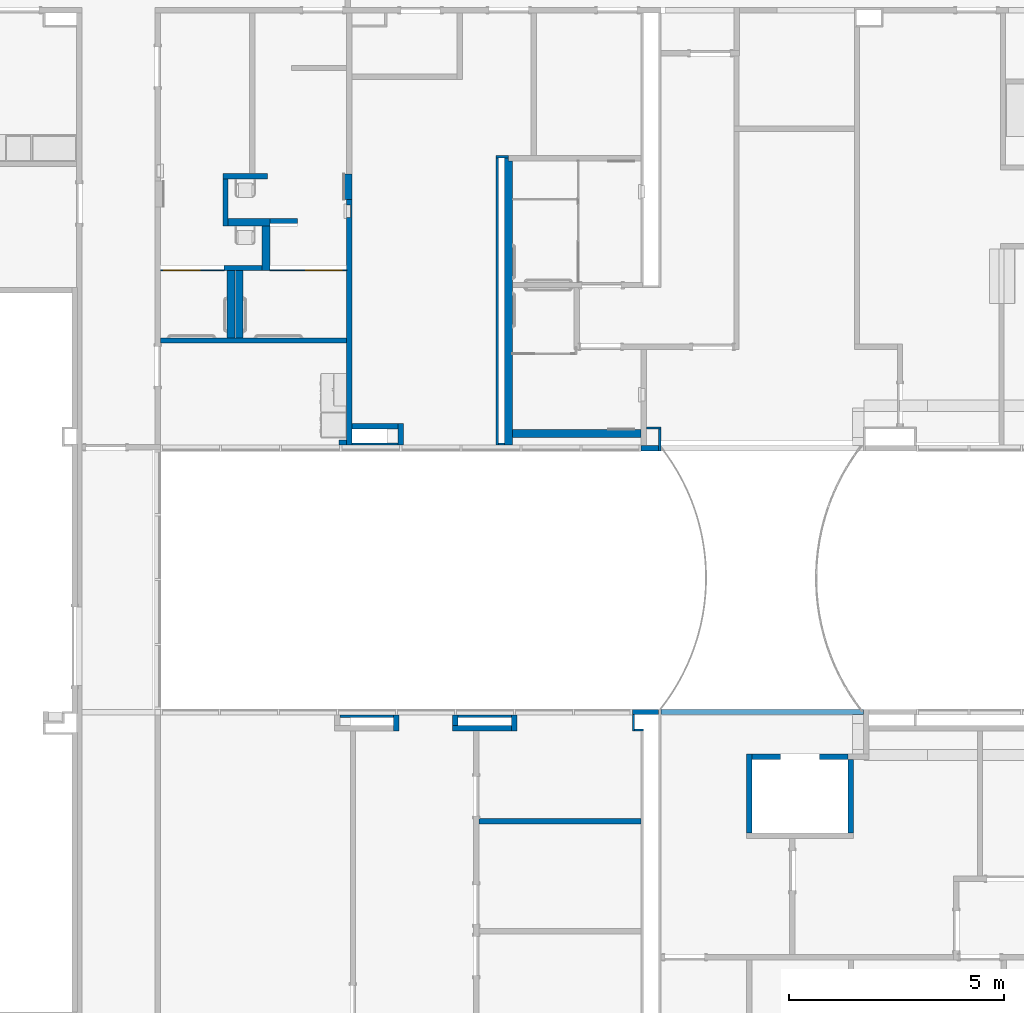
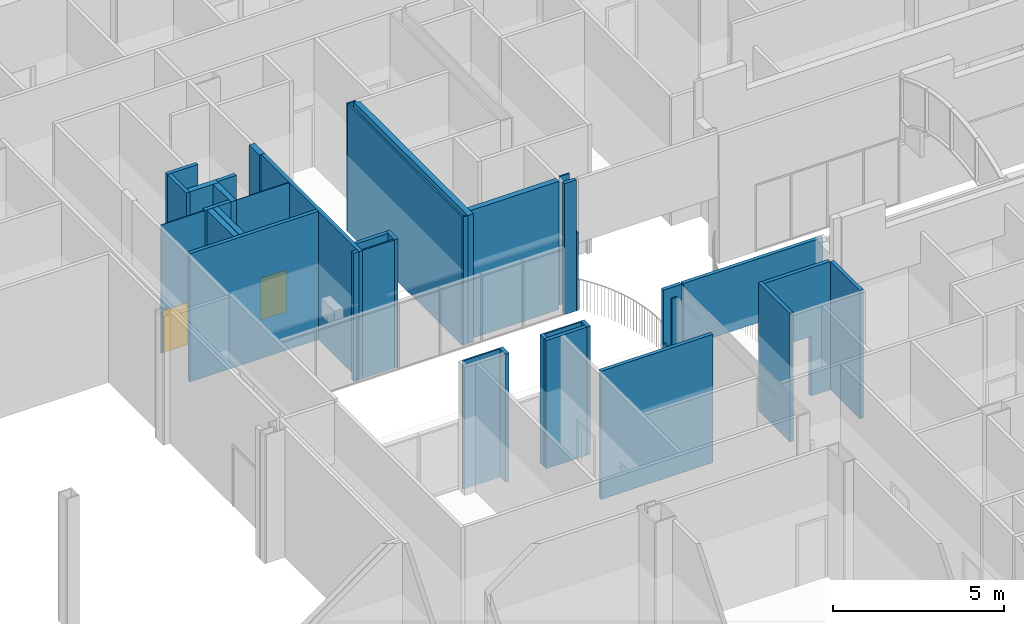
# One storey, part 13 of 47: 39 walls, 2 doors, 6 openings.
"""IFC2X3 building model written with IfcOpenShell, lengths in metres."""

import ifcopenshell
import ifcopenshell.guid

model = None  # the IFC model being written
_history = None  # IfcOwnerHistory: only IFC2X3 demands one
_inside = {}  # id of a spatial element -> (the spatial element, [elements in it])
_under = {}  # id of a project, library or spatial element -> (it, [spatial elements below it])
_declared = {}  # id of a project -> (the project, [libraries it declares])
_typed = {}  # id of a type object -> (the type object, [elements of that type])
_made_of = {}  # id of a material, layer set ... -> (it, [elements and type objects made of it])


def new_model(schema):
    """Start an empty IFC model of exactly this schema.

    Asked for "IFC4X3", IfcOpenShell would pick the latest addendum, in which some entities
    have other attributes; the version numbers below select the first issue.
    IFC2X3 requires an IfcOwnerHistory on every rooted entity: one is made here for all.
    """
    global model, _history
    if schema == "IFC4X3":
        model = ifcopenshell.file(schema_version=(4, 3, 0, 0))
    else:
        model = ifcopenshell.file(schema=schema)
    _inside.clear()
    _under.clear()
    _declared.clear()
    _typed.clear()
    _made_of.clear()
    _history = None
    if model.schema == "IFC2X3":
        org = make("IfcOrganization", Name="unknown")
        user = make(
            "IfcPersonAndOrganization",
            ThePerson=make("IfcPerson", FamilyName="unknown"),
            TheOrganization=org,
        )
        app = make(
            "IfcApplication",
            ApplicationDeveloper=org,
            Version="unknown",
            ApplicationFullName="unknown",
            ApplicationIdentifier="unknown",
        )
        _history = make(
            "IfcOwnerHistory",
            OwningUser=user,
            OwningApplication=app,
            ChangeAction="ADDED",
            CreationDate=0,
        )
    return model


def make(cls, **values):
    """One entity of the class cls with the attributes given. An attribute that is None is left unset."""
    return model.create_entity(
        cls, **{name: value for name, value in values.items() if value is not None}
    )


def entity(cls, *values):
    """Any entity or typed value of the class cls, its attributes in the order of the schema. None: left unset."""
    e = model.create_entity(cls)
    for i, value in enumerate(values):
        if value is not None:
            e[i] = value
    return e


def rooted(cls, **values):
    """An entity with a GlobalId (a new one), such as an element, a storey or a relation."""
    return make(cls, GlobalId=ifcopenshell.guid.new(), OwnerHistory=_history, **values)


def si_unit(unit_type, name, prefix=None):
    """IfcSIUnit, for example si_unit("LENGTHUNIT", "METRE", prefix="MILLI")."""
    return make("IfcSIUnit", UnitType=unit_type, Prefix=prefix, Name=name)


def converted_unit(unit_type, name, factor, base, dimensions=None, offset=None):
    """IfcConversionBasedUnit, such as the inch: factor (a typed value) times the base unit."""
    return make(
        "IfcConversionBasedUnit"
        if offset is None
        else "IfcConversionBasedUnitWithOffset",
        ConversionOffset=offset,
        Dimensions=None
        if dimensions is None
        else entity("IfcDimensionalExponents", *dimensions),
        UnitType=unit_type,
        Name=name,
        ConversionFactor=make(
            "IfcMeasureWithUnit", ValueComponent=factor, UnitComponent=base
        ),
    )


def assignment(units):
    """IfcUnitAssignment: the units of a project."""
    return None if units is None else make("IfcUnitAssignment", Units=units)


def point(xyz):
    """IfcCartesianPoint."""
    return None if xyz is None else make("IfcCartesianPoint", Coordinates=xyz)


def direction(xyz):
    """IfcDirection."""
    return None if xyz is None else make("IfcDirection", DirectionRatios=xyz)


def frame(location, z_axis=None, x_axis=None):
    """IfcAxis2Placement3D, a coordinate frame: its origin and axes. An axis left out is left unset."""
    return make(
        "IfcAxis2Placement3D",
        Location=point(location),
        Axis=direction(z_axis),
        RefDirection=direction(x_axis),
    )


def frame_2d(location, x_axis=None):
    """IfcAxis2Placement2D, a coordinate frame in the plane: its origin and x axis."""
    return make(
        "IfcAxis2Placement2D", Location=point(location), RefDirection=direction(x_axis)
    )


def origin():
    """The frame at (0, 0, 0) with its axes left unset."""
    return frame((0.0, 0.0, 0.0))


def origin_2d_with_axis():
    """The frame at (0, 0) in the plane with the x axis (1, 0) written out."""
    return frame_2d((0.0, 0.0), x_axis=(1.0, 0.0))


def place(relative_to, where):
    """IfcLocalPlacement: puts the frame where relative to a parent placement (None: the world)."""
    return make(
        "IfcLocalPlacement", PlacementRelTo=relative_to, RelativePlacement=where
    )


def context(
    kind, dimensions, precision=None, world=None, true_north=None, identifier=None
):
    """IfcGeometricRepresentationContext, for example the 3D "Model" context."""
    return make(
        "IfcGeometricRepresentationContext",
        ContextIdentifier=identifier,
        ContextType=kind,
        CoordinateSpaceDimension=dimensions,
        Precision=precision,
        WorldCoordinateSystem=world,
        TrueNorth=true_north,
    )


def project(units=None, contexts=None):
    """IfcProject with its units and contexts."""
    return rooted(
        "IfcProject",
        Name="project",
        RepresentationContexts=contexts,
        UnitsInContext=assignment(units),
    )


def spatial(cls, under=None, at=None, **own):
    """A site, building, storey or space (cls), placed at a placement, below another one or the project."""
    s = rooted(cls, ObjectPlacement=at, **own)
    if under is not None:
        _under.setdefault(under.id(), (under, []))[1].append(s)
    return s


def polyline(points):
    """IfcPolyline through the points."""
    return make("IfcPolyline", Points=[point(p) for p in points])


def profile(cls, at=None, kind="AREA", **sizes):
    """A parametric profile (cls). Its sizes go by their IFC names, for example OverallWidth=200.0."""
    return make(cls, ProfileType=kind, Position=at, **sizes)


def rectangle(**sizes):
    """IfcRectangleProfileDef."""
    return profile("IfcRectangleProfileDef", **sizes)


def outline(outer, holes=None, kind="AREA"):
    """IfcArbitraryClosedProfileDef: a profile drawn as a closed curve; with holes, ...WithVoids."""
    if holes is None:
        return make("IfcArbitraryClosedProfileDef", ProfileType=kind, OuterCurve=outer)
    return make(
        "IfcArbitraryProfileDefWithVoids",
        ProfileType=kind,
        OuterCurve=outer,
        InnerCurves=holes,
    )


def extrude(swept, where, along, depth):
    """IfcExtrudedAreaSolid: the profile swept, set in the frame where, extruded along a direction by depth."""
    return make(
        "IfcExtrudedAreaSolid",
        SweptArea=swept,
        Position=where,
        ExtrudedDirection=direction(along),
        Depth=depth,
    )


def shape(context_of_items, identifier, shape_type, items):
    """IfcShapeRepresentation: the items that make up one representation, for example the "Body"."""
    return make(
        "IfcShapeRepresentation",
        ContextOfItems=context_of_items,
        RepresentationIdentifier=identifier,
        RepresentationType=shape_type,
        Items=items,
    )


def source(mapping_origin, context_of_items, identifier, shape_type, items):
    """IfcRepresentationMap: a shape defined once, which mapped items show again and again."""
    return make(
        "IfcRepresentationMap",
        MappingOrigin=mapping_origin,
        MappedRepresentation=shape(context_of_items, identifier, shape_type, items),
    )


def transform(
    local_origin,
    x_axis=None,
    y_axis=None,
    z_axis=None,
    scale=None,
    scale2=None,
    scale3=None,
    uniform=True,
):
    """IfcCartesianTransformationOperator3D, or its non-uniform kind. x_axis, y_axis, z_axis: its Axis1, 2, 3."""
    if uniform:
        return make(
            "IfcCartesianTransformationOperator3D",
            Axis1=direction(x_axis),
            Axis2=direction(y_axis),
            LocalOrigin=point(local_origin),
            Scale=scale,
            Axis3=direction(z_axis),
        )
    return make(
        "IfcCartesianTransformationOperator3DnonUniform",
        Axis1=direction(x_axis),
        Axis2=direction(y_axis),
        LocalOrigin=point(local_origin),
        Scale=scale,
        Axis3=direction(z_axis),
        Scale2=scale2,
        Scale3=scale3,
    )


def mapped(mapping_source, mapping_target):
    """IfcMappedItem: shows the shape of a source again, moved by a transform."""
    return make(
        "IfcMappedItem", MappingSource=mapping_source, MappingTarget=mapping_target
    )


def material(Name=None, Category=None):
    """IfcMaterial."""
    return make("IfcMaterial", Name=Name, Category=Category)


def layer(
    of_material, thickness, ventilated=None, Name=None, Category=None, Priority=None
):
    """IfcMaterialLayer: one layer of a wall or slab, of a material (None: an air gap)."""
    return make(
        "IfcMaterialLayer",
        Material=of_material,
        LayerThickness=thickness,
        IsVentilated=ventilated,
        Name=Name,
        Category=Category,
        Priority=Priority,
    )


def layer_set(layers, Name=None):
    """IfcMaterialLayerSet."""
    return make("IfcMaterialLayerSet", MaterialLayers=layers, LayerSetName=Name)


def layer_usage(for_layer_set, set_direction, sense, offset, extent=None):
    """IfcMaterialLayerSetUsage: how a layer set lies in its element."""
    return make(
        "IfcMaterialLayerSetUsage",
        ForLayerSet=for_layer_set,
        LayerSetDirection=set_direction,
        DirectionSense=sense,
        OffsetFromReferenceLine=offset,
        ReferenceExtent=extent,
    )


def made_of(thing, what):
    """Note that an element or type object is made of a material, layer set ...; save() writes the relation."""
    if what is not None:
        _made_of.setdefault(what.id(), (what, []))[1].append(thing)
    return thing


def type_object(cls, material=None, **own):
    """A type object (cls), such as IfcWallType, which elements share."""
    return made_of(rooted(cls, **own), material)


def type_shapes(of_type, sources):
    """Give a type object the sources (RepresentationMaps) that its elements show as mapped items."""
    of_type.RepresentationMaps = sources


def element(
    cls,
    number,
    at=None,
    inside=None,
    cuts=None,
    type_object=None,
    material=None,
    context=None,
    identifier="Body",
    shape_type=None,
    held_by="IfcProductDefinitionShape",
    body=None,
    shapes=None,
    **own,
):
    """One element of the class cls, such as IfcWall. Its Tag is "e" and its number.

    at: its placement. inside: the storey or other place that contains it. cuts: it is an
    opening in that element (IfcRelVoidsElement). A single representation is given by context,
    identifier, shape_type and body (its items); several are given by shapes. held_by: the class
    of the entity that holds the representations. save() writes the other relations.
    """
    e = rooted(cls, Tag="e%d" % number, ObjectPlacement=at, **own)
    if body is not None:
        shapes = [shape(context, identifier, shape_type, body)]
    if shapes is not None:
        e.Representation = make(held_by, Representations=shapes)
    if inside is not None:
        _inside.setdefault(inside.id(), (inside, []))[1].append(e)
    if cuts is not None:
        rooted(
            "IfcRelVoidsElement", RelatingBuildingElement=cuts, RelatedOpeningElement=e
        )
    if type_object is not None:
        _typed.setdefault(type_object.id(), (type_object, []))[1].append(e)
    return made_of(e, material)


def fill(opening, filler):
    """IfcRelFillsElement: the door or window that sits in an opening."""
    return rooted(
        "IfcRelFillsElement",
        RelatingOpeningElement=opening,
        RelatedBuildingElement=filler,
    )


def aggregate(whole, parts):
    """IfcRelAggregates: a whole, such as a stair, and the parts it consists of."""
    return rooted("IfcRelAggregates", RelatingObject=whole, RelatedObjects=parts)


def save(model, path):
    """Write the relations noted so far, then the file.

    IfcRelAggregates (storeys below a building ...), IfcRelContainedInSpatialStructure (elements
    in a storey), IfcRelDefinesByType, IfcRelAssociatesMaterial and IfcRelDeclares: one each for
    every whole, place, type object, material and project.
    """
    for whole, parts in _under.values():
        aggregate(whole, parts)
    for where, things in _inside.values():
        rooted(
            "IfcRelContainedInSpatialStructure",
            RelatedElements=things,
            RelatingStructure=where,
        )
    for kind, things in _typed.values():
        rooted("IfcRelDefinesByType", RelatedObjects=things, RelatingType=kind)
    for what, things in _made_of.values():
        rooted("IfcRelAssociatesMaterial", RelatedObjects=things, RelatingMaterial=what)
    for by, libraries in _declared.values():
        rooted("IfcRelDeclares", RelatingContext=by, RelatedDefinitions=libraries)
    model.write(path)


model = new_model("IFC2X3")

# Units and contexts
model_context = context("Model", 3, precision=1e-09, world=origin())
plan_context = context("Plan", 3, precision=1e-09, world=origin())
ifc_project = project(units=[si_unit("LENGTHUNIT", "METRE"), si_unit("AREAUNIT", "SQUARE_METRE"), si_unit("VOLUMEUNIT", "CUBIC_METRE"), converted_unit("PLANEANGLEUNIT", "DEGREE", entity("IfcRatioMeasure", 0.01745329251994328), si_unit("PLANEANGLEUNIT", "RADIAN"), dimensions=[0, 0, 0, 0, 0, 0, 0]), si_unit("TIMEUNIT", "SECOND")], contexts=[model_context, plan_context])

# Site, building, storey
site_placement = place(None, origin())
site = spatial("IfcSite", under=ifc_project, at=site_placement, Name="Default", CompositionType="ELEMENT")
building_placement = place(site_placement, origin())
building = spatial("IfcBuilding", under=site, at=building_placement, CompositionType="ELEMENT")
storey_placement = place(building_placement, frame((0.0, 0.0, 4.570000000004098)))
storey = spatial("IfcBuildingStorey", under=building, at=storey_placement, Name="Second Floor", CompositionType="ELEMENT", Elevation=4.570000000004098)

# Walls
ifc_material_1 = material(Name="Plasterboard")
ifc_layer_1 = layer(ifc_material_1, 0.016)
ifc_material_2 = material(Name="Metal - Stud Layer")
ifc_layer_2 = layer(ifc_material_2, 0.092)
ifc_layer_3 = layer(ifc_material_1, 0.016)
ifc_layer_set_1 = layer_set([ifc_layer_1, ifc_layer_2, ifc_layer_3], Name="Basic Wall:Interior - Partition (92mm Stud)")
ifc_layer_usage_1 = layer_usage(ifc_layer_set_1, "AXIS2", "NEGATIVE", 0.062)
wall_1_placement = place(storey_placement, frame((-25.99200000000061, 28.55319840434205, 0.0), z_axis=(0.0, 0.0, 1.0), x_axis=(0.0, -1.0, 0.0)))
element("IfcWallStandardCase", 1, at=wall_1_placement, inside=storey, material=ifc_layer_usage_1, Name="Basic Wall:Interior - Partition (92mm Stud)", ObjectType="Basic Wall:Interior - Partition (92mm Stud)", context=model_context, shape_type="SweptSolid", body=[
    extrude(rectangle(XDim=0.3687596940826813, YDim=0.1239999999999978, at=frame_2d((0.1843798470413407, 0.0), x_axis=(-1.0, 0.0))), origin(), (0.0, 0.0, 1.0), 4.577999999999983),
])
ifc_layer_usage_2 = layer_usage(ifc_layer_set_1, "AXIS2", "NEGATIVE", 0.062)
wall_2_placement = place(storey_placement, frame((-23.2435000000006, 28.55319840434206, 0.0), z_axis=(0.0, 0.0, 1.0), x_axis=(0.0, -1.0, 0.0)))
element("IfcWallStandardCase", 2, at=wall_2_placement, inside=storey, material=ifc_layer_usage_2, Name="Basic Wall:Interior - Partition (92mm Stud)", ObjectType="Basic Wall:Interior - Partition (92mm Stud)", context=model_context, shape_type="SweptSolid", body=[
    extrude(rectangle(XDim=0.3687596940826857, YDim=0.1239999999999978, at=frame_2d((0.1843798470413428, 0.0), x_axis=(-1.0, 0.0))), origin(), (0.0, 0.0, 1.0), 4.577999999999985),
])
ifc_layer_usage_3 = layer_usage(ifc_layer_set_1, "AXIS2", "NEGATIVE", 0.062)
wall_3_placement = place(storey_placement, frame((-23.30550000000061, 28.24643871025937, 0.0), z_axis=(0.0, 0.0, 1.0), x_axis=(-1.0, 0.0, 0.0)))
element("IfcWallStandardCase", 3, at=wall_3_placement, inside=storey, material=ifc_layer_usage_3, Name="Basic Wall:Interior - Partition (92mm Stud)", ObjectType="Basic Wall:Interior - Partition (92mm Stud)", context=model_context, shape_type="SweptSolid", body=[
    extrude(rectangle(XDim=1.374249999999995, YDim=0.1239999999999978, at=frame_2d((0.6871249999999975, 0.0), x_axis=(-1.0, 0.0))), origin(), (0.0, 0.0, 1.0), 4.577999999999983),
])
ifc_layer_usage_4 = layer_usage(ifc_layer_set_1, "AXIS2", "NEGATIVE", 0.062)
wall_4_placement = place(storey_placement, frame((-24.6177500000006, 28.30843871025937, 0.0), z_axis=(0.0, 0.0, 1.0), x_axis=(0.0, 1.0, 0.0)))
element("IfcWallStandardCase", 4, at=wall_4_placement, inside=storey, material=ifc_layer_usage_4, Name="Basic Wall:Interior - Partition (92mm Stud)", ObjectType="Basic Wall:Interior - Partition (92mm Stud)", context=model_context, shape_type="SweptSolid", body=[
    extrude(rectangle(XDim=0.2447596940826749, YDim=0.1239999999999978, at=frame_2d((0.1223798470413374, 0.0), x_axis=(-1.0, 0.0))), origin(), (0.0, 0.0, 1.0), 4.577999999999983),
])
ifc_layer_usage_5 = layer_usage(ifc_layer_set_1, "AXIS2", "NEGATIVE", 0.062)
wall_5_placement = place(storey_placement, frame((-20.29000000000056, 26.08643871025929, 0.0), z_axis=(0.0, 0.0, 1.0), x_axis=(-1.0, 0.0, 0.0)))
element("IfcWallStandardCase", 5, at=wall_5_placement, inside=storey, material=ifc_layer_usage_5, Name="Basic Wall:Interior - Partition (92mm Stud)", ObjectType="Basic Wall:Interior - Partition (92mm Stud)", context=model_context, shape_type="SweptSolid", body=[
    extrude(rectangle(XDim=3.781000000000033, YDim=0.1239999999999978, at=frame_2d((1.890500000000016, 0.0), x_axis=(-1.0, 0.0))), origin(), (0.0, 0.0, 1.0), 4.577999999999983),
])
ifc_material_3 = material(Name="Type-X Plasterboard")
ifc_layer_4 = layer(ifc_material_3, 0.016)
ifc_layer_5 = layer(ifc_material_2, 0.092)
ifc_layer_6 = layer(ifc_material_3, 0.016)
ifc_layer_set_2 = layer_set([ifc_layer_4, ifc_layer_5, ifc_layer_6], Name="Basic Wall:Interior - Rated 1-HR (92mm Stud)")
ifc_layer_usage_6 = layer_usage(ifc_layer_set_2, "AXIS2", "NEGATIVE", 0.06200000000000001)
wall_6_placement = place(storey_placement, frame((-17.76720000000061, 25.80739999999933, 0.0), z_axis=(0.0, 0.0, 1.0), x_axis=(0.0, 1.0, 0.0)))
element("IfcWallStandardCase", 6, at=wall_6_placement, inside=storey, material=ifc_layer_usage_6, Name="Basic Wall:Interior - Rated 1-HR (92mm Stud)", ObjectType="Basic Wall:Interior - Rated 1-HR (92mm Stud)", context=model_context, shape_type="SweptSolid", body=[
    extrude(rectangle(XDim=1.838499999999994, YDim=0.1240000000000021, at=frame_2d((0.9192499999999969, 0.0), x_axis=(-1.0, 0.0))), origin(), (0.0, 0.0, 1.0), 4.577999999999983),
])

# Wall, opening
ifc_layer_usage_7 = layer_usage(ifc_layer_set_2, "AXIS2", "NEGATIVE", 0.06200000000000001)
wall_7_placement = place(storey_placement, frame((-17.70520000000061, 27.58389999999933, 0.0)))
wall_7 = element("IfcWallStandardCase", 7, at=wall_7_placement, inside=storey, material=ifc_layer_usage_7, Name="Basic Wall:Interior - Rated 1-HR (92mm Stud)", ObjectType="Basic Wall:Interior - Rated 1-HR (92mm Stud)", context=model_context, shape_type="SweptSolid", body=[
    extrude(rectangle(XDim=2.235199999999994, YDim=0.1239999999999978, at=frame_2d((1.117599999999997, 0.0), x_axis=(-1.0, 0.0))), origin(), (0.0, 0.0, 1.0), 4.577999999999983),
])
opening_1_placement = place(wall_7_placement, frame((1.117599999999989, 0.0619999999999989, 1.067000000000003)))
element("IfcOpeningElement", 8, at=opening_1_placement, cuts=wall_7, Name="Basic Wall:Interior - Rated 1-HR (92mm Stud):2", ObjectType="Opening", context=model_context, shape_type="SweptSolid", body=[
    extrude(rectangle(XDim=2.134000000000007, YDim=0.9144000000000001, at=frame_2d((0.0, 0.0), x_axis=(0.0, 1.0))), frame((0.0, 0.0, 0.0), z_axis=(0.0, -1.0, 0.0), x_axis=(1.0, 0.0, 0.0)), (0.0, 0.0, 1.0), 0.124),
])

# Walls
ifc_layer_usage_8 = layer_usage(ifc_layer_set_2, "AXIS2", "NEGATIVE", 0.06200000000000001)
wall_8_placement = place(storey_placement, frame((-15.40800000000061, 27.64589999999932, 0.0), z_axis=(0.0, 0.0, 1.0), x_axis=(0.0, -1.0, 0.0)))
element("IfcWallStandardCase", 9, at=wall_8_placement, inside=storey, material=ifc_layer_usage_8, Name="Basic Wall:Interior - Rated 1-HR (92mm Stud)", ObjectType="Basic Wall:Interior - Rated 1-HR (92mm Stud)", context=model_context, shape_type="SweptSolid", body=[
    extrude(rectangle(XDim=1.714499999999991, YDim=0.124, at=frame_2d((0.9812499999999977, 0.0), x_axis=(-1.0, 0.0))), origin(), (0.0, 0.0, 1.0), 4.577999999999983),
])
ifc_layer_usage_9 = layer_usage(ifc_layer_set_1, "AXIS2", "NEGATIVE", 0.062)
wall_9_placement = place(storey_placement, frame((-28.99560000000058, 41.10854685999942, 0.0), z_axis=(0.0, 0.0, 1.0), x_axis=(-1.0, 0.0, 0.0)))
element("IfcWallStandardCase", 10, at=wall_9_placement, inside=storey, material=ifc_layer_usage_9, Name="Basic Wall:Interior - Partition (92mm Stud)", ObjectType="Basic Wall:Interior - Partition (92mm Stud)", context=model_context, shape_type="SweptSolid", body=[
    extrude(rectangle(XDim=1.038400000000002, YDim=0.1240000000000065, at=frame_2d((0.5192000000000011, 0.0), x_axis=(-1.0, 0.0))), origin(), (0.0, 0.0, 1.0), 4.577999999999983),
])
ifc_layer_usage_10 = layer_usage(ifc_layer_set_1, "AXIS2", "NEGATIVE", 0.062)
wall_10_placement = place(storey_placement, frame((-29.97200000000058, 41.04654685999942, 0.0), z_axis=(0.0, 0.0, 1.0), x_axis=(0.0, -1.0, 0.0)))
element("IfcWallStandardCase", 11, at=wall_10_placement, inside=storey, material=ifc_layer_usage_10, Name="Basic Wall:Interior - Partition (92mm Stud)", ObjectType="Basic Wall:Interior - Partition (92mm Stud)", context=model_context, shape_type="SweptSolid", body=[
    extrude(rectangle(XDim=1.099000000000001, YDim=0.1239999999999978, at=frame_2d((0.5495000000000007, 0.0), x_axis=(-1.0, 0.0))), origin(), (0.0, 0.0, 1.0), 4.577999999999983),
])
ifc_layer_7 = layer(ifc_material_1, 0.016)
ifc_layer_8 = layer(ifc_material_2, 0.152)
ifc_layer_9 = layer(ifc_material_1, 0.016)
ifc_layer_set_3 = layer_set([ifc_layer_7, ifc_layer_8, ifc_layer_9], Name="Basic Wall:Interior - Plumbing (152mm Stud)")
ifc_layer_usage_11 = layer_usage(ifc_layer_set_3, "AXIS2", "NEGATIVE", 0.092)
wall_11_placement = place(storey_placement, frame((-29.91000000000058, 40.03954685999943, 0.0)))
element("IfcWallStandardCase", 12, at=wall_11_placement, inside=storey, material=ifc_layer_usage_11, Name="Basic Wall:Interior - Plumbing (152mm Stud)", ObjectType="Basic Wall:Interior - Plumbing (152mm Stud)", context=model_context, shape_type="SweptSolid", body=[
    extrude(rectangle(XDim=0.969999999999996, YDim=0.1839999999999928, at=frame_2d((0.484999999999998, 0.0), x_axis=(-1.0, 0.0))), origin(), (0.0, 0.0, 1.0), 4.577999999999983),
])
ifc_layer_usage_12 = layer_usage(ifc_layer_set_3, "AXIS2", "NEGATIVE", 0.092)
wall_12_placement = place(storey_placement, frame((-29.03200000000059, 39.94754685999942, 0.0), z_axis=(0.0, 0.0, 1.0), x_axis=(0.0, -1.0, 0.0)))
element("IfcWallStandardCase", 13, at=wall_12_placement, inside=storey, material=ifc_layer_usage_12, Name="Basic Wall:Interior - Plumbing (152mm Stud)", ObjectType="Basic Wall:Interior - Plumbing (152mm Stud)", context=model_context, shape_type="SweptSolid", body=[
    extrude(rectangle(XDim=1.03778029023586, YDim=0.1840000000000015, at=frame_2d((0.5188901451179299, 0.0), x_axis=(-1.0, 0.0))), origin(), (0.0, 0.0, 1.0), 4.577999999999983),
])
ifc_layer_usage_13 = layer_usage(ifc_layer_set_1, "AXIS2", "NEGATIVE", 0.062)
wall_13_placement = place(storey_placement, frame((-29.12400000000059, 38.97176656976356, 0.0), z_axis=(0.0, 0.0, 1.0), x_axis=(-1.0, 0.0, 0.0)))
element("IfcWallStandardCase", 14, at=wall_13_placement, inside=storey, material=ifc_layer_usage_13, Name="Basic Wall:Interior - Partition (92mm Stud)", ObjectType="Basic Wall:Interior - Partition (92mm Stud)", context=model_context, shape_type="SweptSolid", body=[
    extrude(rectangle(XDim=0.8799999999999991, YDim=0.1239999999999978, at=frame_2d((0.4399999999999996, 0.0), x_axis=(-1.0, 0.0))), origin(), (0.0, 0.0, 1.0), 4.577999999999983),
])
ifc_layer_usage_14 = layer_usage(ifc_layer_set_3, "AXIS2", "NEGATIVE", 0.092)
wall_14_placement = place(storey_placement, frame((-29.65200000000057, 38.90976656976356, 0.0), z_axis=(0.0, 0.0, 1.0), x_axis=(0.0, -1.0, 0.0)))
element("IfcWallStandardCase", 15, at=wall_14_placement, inside=storey, material=ifc_layer_usage_14, Name="Basic Wall:Interior - Plumbing (152mm Stud)", ObjectType="Basic Wall:Interior - Plumbing (152mm Stud)", context=model_context, shape_type="SweptSolid", body=[
    extrude(rectangle(XDim=1.565327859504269, YDim=0.1840000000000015, at=frame_2d((0.7826639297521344, 0.0), x_axis=(-1.0, 0.0))), origin(), (0.0, 0.0, 1.0), 4.577999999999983),
])
ifc_layer_usage_15 = layer_usage(ifc_layer_set_3, "AXIS2", "NEGATIVE", 0.092)
wall_15_placement = place(storey_placement, frame((-29.84800000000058, 37.3444387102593, 0.0), z_axis=(0.0, 0.0, 1.0), x_axis=(0.0, 1.0, 0.0)))
element("IfcWallStandardCase", 16, at=wall_15_placement, inside=storey, material=ifc_layer_usage_15, Name="Basic Wall:Interior - Plumbing (152mm Stud)", ObjectType="Basic Wall:Interior - Plumbing (152mm Stud)", context=model_context, shape_type="SweptSolid", body=[
    extrude(rectangle(XDim=1.565327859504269, YDim=0.1840000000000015, at=frame_2d((0.7826639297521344, 0.0), x_axis=(-1.0, 0.0))), origin(), (0.0, 0.0, 1.0), 4.577999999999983),
])
ifc_layer_usage_16 = layer_usage(ifc_layer_set_1, "AXIS2", "NEGATIVE", 0.062)
wall_16_placement = place(storey_placement, frame((-31.4860000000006, 37.2824387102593, 0.0)))
element("IfcWallStandardCase", 17, at=wall_16_placement, inside=storey, material=ifc_layer_usage_16, Name="Basic Wall:Interior - Partition (92mm Stud)", ObjectType="Basic Wall:Interior - Partition (92mm Stud)", context=model_context, shape_type="SweptSolid", body=[
    extrude(rectangle(XDim=4.336000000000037, YDim=0.1239999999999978, at=frame_2d((2.168000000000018, 0.0), x_axis=(-1.0, 0.0))), origin(), (0.0, 0.0, 1.0), 4.577999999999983),
])

# Wall, opening
ifc_layer_usage_17 = layer_usage(ifc_layer_set_1, "AXIS2", "NEGATIVE", 0.062)
wall_17_placement = place(storey_placement, frame((-27.08800000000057, 34.84680159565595, 0.0), z_axis=(0.0, 0.0, 1.0), x_axis=(0.0, 1.0, 0.0)))
wall_17 = element("IfcWallStandardCase", 18, at=wall_17_placement, inside=storey, material=ifc_layer_usage_17, Name="Basic Wall:Interior - Partition (92mm Stud)", ObjectType="Basic Wall:Interior - Partition (92mm Stud)", context=model_context, shape_type="SweptSolid", body=[
    extrude(rectangle(XDim=5.717637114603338, YDim=0.1239999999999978, at=frame_2d((2.858818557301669, 0.0), x_axis=(-1.0, 0.0))), origin(), (0.0, 0.0, 1.0), 4.577999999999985),
])
opening_2_placement = place(wall_17_placement, origin())
element("IfcOpeningElement", 19, at=opening_2_placement, cuts=wall_17, ObjectType="Opening", context=model_context, shape_type="SweptSolid", body=[
    extrude(rectangle(XDim=1.362075, YDim=0.2984499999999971, at=frame_2d((0.0, 0.0), x_axis=(0.0, 1.0))), frame((5.449845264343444, -0.02690000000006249, 1.041399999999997), z_axis=(0.0, 1.0, 0.0), x_axis=(1.0, 0.0, 0.0)), (0.0, 0.0, 1.0), 0.1524000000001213),
])

# Walls
ifc_layer_10 = layer(ifc_material_2, 0.038)
ifc_layer_11 = layer(ifc_material_1, 0.016)
ifc_layer_set_4 = layer_set([ifc_layer_10, ifc_layer_11], Name="Basic Wall:Interior - Furring (38 mm Stud)")
ifc_layer_usage_18 = layer_usage(ifc_layer_set_4, "AXIS2", "POSITIVE", -0.027)
wall_18_placement = place(storey_placement, frame((-23.6700000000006, 41.5674387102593, 0.0)))
element("IfcWallStandardCase", 20, at=wall_18_placement, inside=storey, material=ifc_layer_usage_18, Name="Basic Wall:Interior - Furring (38 mm Stud)", ObjectType="Basic Wall:Interior - Furring (38 mm Stud)", context=model_context, shape_type="SweptSolid", body=[
    extrude(rectangle(XDim=0.2879999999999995, YDim=0.05400000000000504, at=frame_2d((0.1439999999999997, 0.0), x_axis=(-1.0, 0.0))), origin(), (0.0, 0.0, 1.0), 4.577999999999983),
])
ifc_layer_usage_19 = layer_usage(ifc_layer_set_4, "AXIS2", "POSITIVE", -0.027)
wall_19_placement = place(storey_placement, frame((-23.64300000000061, 34.84680159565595, 0.0), z_axis=(0.0, 0.0, 1.0), x_axis=(0.0, 1.0, 0.0)))
element("IfcWallStandardCase", 21, at=wall_19_placement, inside=storey, material=ifc_layer_usage_19, Name="Basic Wall:Interior - Furring (38 mm Stud)", ObjectType="Basic Wall:Interior - Furring (38 mm Stud)", context=model_context, shape_type="SweptSolid", body=[
    extrude(rectangle(XDim=6.69363711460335, YDim=0.05399999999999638, at=frame_2d((3.346818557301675, 0.0), x_axis=(-1.0, 0.0))), origin(), (0.0, 0.0, 1.0), 4.577999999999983),
])
ifc_layer_usage_20 = layer_usage(ifc_layer_set_3, "AXIS2", "NEGATIVE", 0.092)
wall_20_placement = place(storey_placement, frame((-23.3820000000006, 41.54043871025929, 0.0), z_axis=(0.0, 0.0, 1.0), x_axis=(0.0, -1.0, 0.0)))
element("IfcWallStandardCase", 22, at=wall_20_placement, inside=storey, material=ifc_layer_usage_20, Name="Basic Wall:Interior - Plumbing (152mm Stud)", ObjectType="Basic Wall:Interior - Plumbing (152mm Stud)", context=model_context, shape_type="SweptSolid", body=[
    extrude(outline(polyline([(6.693637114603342, -0.09200000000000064), (6.693637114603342, 0.09200000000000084), (6.515438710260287, 0.09200000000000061), (6.331438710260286, 0.09200000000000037), (3.026085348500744, 0.09200000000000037), (2.902085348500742, 0.0920000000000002), (0.0700000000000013, 0.09200000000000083), (0.07000000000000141, 0.0), (0.0, 0.0), (0.0, -0.09200000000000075), (6.639637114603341, -0.0920000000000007), (6.693637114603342, -0.09200000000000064)])), origin(), (0.0, 0.0, 1.0), 4.577999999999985),
])
ifc_layer_usage_21 = layer_usage(ifc_layer_set_4, "AXIS2", "POSITIVE", -0.027)
wall_21_placement = place(storey_placement, frame((-20.16600000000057, 35.2474387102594, 0.0)))
element("IfcWallStandardCase", 23, at=wall_21_placement, inside=storey, material=ifc_layer_usage_21, Name="Basic Wall:Interior - Furring (38 mm Stud)", ObjectType="Basic Wall:Interior - Furring (38 mm Stud)", context=model_context, shape_type="SweptSolid", body=[
    extrude(rectangle(XDim=0.3359999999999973, YDim=0.05399999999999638, at=frame_2d((0.1679999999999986, 0.0), x_axis=(-1.0, 0.0))), origin(), (0.0, 0.0, 1.0), 4.577999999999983),
])
ifc_layer_usage_22 = layer_usage(ifc_layer_set_4, "AXIS2", "POSITIVE", -0.027)
wall_22_placement = place(storey_placement, frame((-19.85700000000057, 35.22043871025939, 0.0), z_axis=(0.0, 0.0, 1.0), x_axis=(0.0, -1.0, 0.0)))
element("IfcWallStandardCase", 24, at=wall_22_placement, inside=storey, material=ifc_layer_usage_22, Name="Basic Wall:Interior - Furring (38 mm Stud)", ObjectType="Basic Wall:Interior - Furring (38 mm Stud)", context=model_context, shape_type="SweptSolid", body=[
    extrude(rectangle(XDim=0.510637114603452, YDim=0.05399999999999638, at=frame_2d((0.255318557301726, 0.0), x_axis=(-1.0, 0.0))), origin(), (0.0, 0.0, 1.0), 2.799999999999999),
])
ifc_layer_usage_23 = layer_usage(ifc_layer_set_1, "AXIS2", "POSITIVE", -0.062)
wall_23_placement = place(storey_placement, frame((-15.04797500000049, 28.62819840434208, 2.399999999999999), z_axis=(0.0, 0.0, 1.0), x_axis=(-1.0, 0.0, 0.0)))
element("IfcWallStandardCase", 25, at=wall_23_placement, inside=storey, material=ifc_layer_usage_23, Name="Basic Wall:Interior - Partition (92mm Stud)", ObjectType="Basic Wall:Interior - Partition (92mm Stud)", context=model_context, shape_type="SweptSolid", body=[
    extrude(rectangle(XDim=4.72002499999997, YDim=0.1240000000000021, at=frame_2d((2.422012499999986, 0.0), x_axis=(-1.0, 0.0))), origin(), (0.0, 0.0, 1.0), 2.279999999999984),
])
ifc_layer_usage_24 = layer_usage(ifc_layer_set_4, "AXIS2", "NEGATIVE", 0.027)
wall_24_placement = place(storey_placement, frame((-20.4680000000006, 28.56619840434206, 0.0), z_axis=(0.0, 0.0, 1.0), x_axis=(0.0, -1.0, 0.0)))
element("IfcWallStandardCase", 26, at=wall_24_placement, inside=storey, material=ifc_layer_usage_24, Name="Basic Wall:Interior - Furring (38 mm Stud)", ObjectType="Basic Wall:Interior - Furring (38 mm Stud)", context=model_context, shape_type="SweptSolid", body=[
    extrude(rectangle(XDim=0.3817596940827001, YDim=0.05399999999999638, at=frame_2d((0.19087984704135, 0.0), x_axis=(-1.0, 0.0))), origin(), (0.0, 0.0, 1.0), 2.799999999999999),
])
ifc_layer_usage_25 = layer_usage(ifc_layer_set_4, "AXIS2", "NEGATIVE", 0.027)
wall_25_placement = place(storey_placement, frame((-20.44100000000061, 28.21143871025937, 0.0)))
element("IfcWallStandardCase", 27, at=wall_25_placement, inside=storey, material=ifc_layer_usage_25, Name="Basic Wall:Interior - Furring (38 mm Stud)", ObjectType="Basic Wall:Interior - Furring (38 mm Stud)", context=model_context, shape_type="SweptSolid", body=[
    extrude(rectangle(XDim=0.205000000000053, YDim=0.05399999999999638, at=frame_2d((0.1025000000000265, 0.0), x_axis=(-1.0, 0.0))), origin(), (0.0, 0.0, 1.0), 4.577999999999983),
])

# Wall, opening
ifc_layer_usage_26 = layer_usage(ifc_layer_set_1, "AXIS2", "NEGATIVE", 0.062)
wall_26_placement = place(storey_placement, frame((-19.85700000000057, 34.77180159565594, 0.0), z_axis=(0.0, 0.0, 1.0), x_axis=(-1.0, 0.0, 0.0)))
wall_26 = element("IfcWallStandardCase", 28, at=wall_26_placement, inside=storey, material=ifc_layer_usage_26, Name="Basic Wall:Interior - Partition (92mm Stud)", ObjectType="Basic Wall:Interior - Partition (92mm Stud)", context=model_context, shape_type="SweptSolid", body=[
    extrude(rectangle(XDim=0.4059999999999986, YDim=0.1240000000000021, at=frame_2d((0.2300000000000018, 0.0), x_axis=(-1.0, 0.0))), origin(), (0.0, 0.0, 1.0), 4.679999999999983),
])
opening_3_placement = place(wall_26_placement, origin())
element("IfcOpeningElement", 29, at=opening_3_placement, cuts=wall_26, ObjectType="Opening", context=model_context, shape_type="SweptSolid", body=[
    extrude(rectangle(XDim=2.4, YDim=11.19900000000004, at=origin_2d_with_axis()), frame((6.032500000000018, -0.2144000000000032, 1.199999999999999), z_axis=(0.0, 1.0, 0.0), x_axis=(0.0, 0.0, 1.0)), (0.0, 0.0, 1.0), 0.4288000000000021),
])

ifc_layer_usage_27 = layer_usage(ifc_layer_set_1, "AXIS2", "POSITIVE", -0.062)
wall_27_placement = place(storey_placement, frame((-19.85700000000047, 28.62819840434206, 0.0), z_axis=(0.0, 0.0, 1.0), x_axis=(-1.0, 0.0, 0.0)))
wall_27 = element("IfcWallStandardCase", 30, at=wall_27_placement, inside=storey, material=ifc_layer_usage_27, Name="Basic Wall:Interior - Partition (92mm Stud)", ObjectType="Basic Wall:Interior - Partition (92mm Stud)", context=model_context, shape_type="SweptSolid", body=[
    extrude(rectangle(XDim=0.1240000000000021, YDim=0.6110000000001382, at=frame_2d((0.3325000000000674, 0.0), x_axis=(0.0, 1.0))), origin(), (0.0, 0.0, 1.0), 4.679999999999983),
])
opening_4_placement = place(wall_27_placement, origin())
element("IfcOpeningElement", 31, at=opening_4_placement, cuts=wall_27, ObjectType="Opening", context=model_context, shape_type="SweptSolid", body=[
    extrude(rectangle(XDim=2.399999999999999, YDim=10.99100000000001, at=origin_2d_with_axis()), frame((6.133500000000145, -0.2144000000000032, 1.199999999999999), z_axis=(0.0, 1.0, 0.0), x_axis=(0.0, 0.0, 1.0)), (0.0, 0.0, 1.0), 0.4288000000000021),
])

# Walls
ifc_layer_usage_28 = layer_usage(ifc_layer_set_1, "AXIS2", "NEGATIVE", 0.062)
wall_28_placement = place(storey_placement, frame((-25.88950000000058, 34.84680159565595, 0.0), z_axis=(0.0, 0.0, 1.0), x_axis=(0.0, 1.0, 0.0)))
element("IfcWallStandardCase", 32, at=wall_28_placement, inside=storey, material=ifc_layer_usage_28, Name="Basic Wall:Interior - Partition (92mm Stud)", ObjectType="Basic Wall:Interior - Partition (92mm Stud)", context=model_context, shape_type="SweptSolid", body=[
    extrude(rectangle(XDim=0.5040000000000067, YDim=0.1239999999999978, at=frame_2d((0.2520000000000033, 0.0), x_axis=(-1.0, 0.0))), origin(), (0.0, 0.0, 1.0), 4.577999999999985),
])
ifc_layer_usage_29 = layer_usage(ifc_layer_set_1, "AXIS2", "NEGATIVE", 0.062)
wall_29_placement = place(storey_placement, frame((-25.95150000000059, 35.28880159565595, 0.0), z_axis=(0.0, 0.0, 1.0), x_axis=(-1.0, 0.0, 0.0)))
element("IfcWallStandardCase", 33, at=wall_29_placement, inside=storey, material=ifc_layer_usage_29, Name="Basic Wall:Interior - Partition (92mm Stud)", ObjectType="Basic Wall:Interior - Partition (92mm Stud)", context=model_context, shape_type="SweptSolid", body=[
    extrude(rectangle(XDim=1.074499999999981, YDim=0.1239999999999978, at=frame_2d((0.5372499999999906, 0.0), x_axis=(-1.0, 0.0))), origin(), (0.0, 0.0, 1.0), 4.577999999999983),
])
ifc_layer_usage_30 = layer_usage(ifc_layer_set_4, "AXIS2", "NEGATIVE", 0.027)
wall_30_placement = place(storey_placement, frame((-23.6160000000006, 34.87380159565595, 0.0)))
element("IfcWallStandardCase", 34, at=wall_30_placement, inside=storey, material=ifc_layer_usage_30, Name="Basic Wall:Interior - Furring (38 mm Stud)", ObjectType="Basic Wall:Interior - Furring (38 mm Stud)", context=model_context, shape_type="SweptSolid", body=[
    extrude(rectangle(XDim=0.141999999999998, YDim=0.05399999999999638, at=frame_2d((0.07099999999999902, 0.0), x_axis=(-1.0, 0.0))), origin(), (0.0, 0.0, 1.0), 4.577999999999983),
])
ifc_layer_usage_31 = layer_usage(ifc_layer_set_4, "AXIS2", "NEGATIVE", 0.027)
wall_31_placement = place(storey_placement, frame((-27.02600000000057, 34.87380159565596, 0.0)))
element("IfcWallStandardCase", 35, at=wall_31_placement, inside=storey, material=ifc_layer_usage_31, Name="Basic Wall:Interior - Furring (38 mm Stud)", ObjectType="Basic Wall:Interior - Furring (38 mm Stud)", context=model_context, shape_type="SweptSolid", body=[
    extrude(rectangle(XDim=1.074499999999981, YDim=0.05399999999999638, at=frame_2d((0.5372499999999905, 0.0), x_axis=(-1.0, 0.0))), origin(), (0.0, 0.0, 1.0), 4.577999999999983),
])
ifc_layer_usage_32 = layer_usage(ifc_layer_set_4, "AXIS2", "NEGATIVE", 0.027)
wall_32_placement = place(storey_placement, frame((-26.05400000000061, 28.52619840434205, 0.0), z_axis=(0.0, 0.0, 1.0), x_axis=(-1.0, 0.0, 0.0)))
element("IfcWallStandardCase", 36, at=wall_32_placement, inside=storey, material=ifc_layer_usage_32, Name="Basic Wall:Interior - Furring (38 mm Stud)", ObjectType="Basic Wall:Interior - Furring (38 mm Stud)", context=model_context, shape_type="SweptSolid", body=[
    extrude(rectangle(XDim=1.250249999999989, YDim=0.05399999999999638, at=frame_2d((0.6251249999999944, 0.0), x_axis=(-1.0, 0.0))), origin(), (0.0, 0.0, 1.0), 4.577999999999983),
])
ifc_layer_usage_33 = layer_usage(ifc_layer_set_4, "AXIS2", "NEGATIVE", 0.027)
wall_33_placement = place(storey_placement, frame((-23.30550000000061, 28.52619840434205, 0.0), z_axis=(0.0, 0.0, 1.0), x_axis=(-1.0, 0.0, 0.0)))
element("IfcWallStandardCase", 37, at=wall_33_placement, inside=storey, material=ifc_layer_usage_33, Name="Basic Wall:Interior - Furring (38 mm Stud)", ObjectType="Basic Wall:Interior - Furring (38 mm Stud)", context=model_context, shape_type="SweptSolid", body=[
    extrude(rectangle(XDim=1.250249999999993, YDim=0.05399999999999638, at=frame_2d((0.6251249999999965, 0.0), x_axis=(-1.0, 0.0))), origin(), (0.0, 0.0, 1.0), 4.577999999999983),
])
ifc_layer_usage_34 = layer_usage(ifc_layer_set_1, "AXIS2", "NEGATIVE", 0.062)
wall_34_placement = place(storey_placement, frame((-27.15000000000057, 34.90880159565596, 0.0), z_axis=(0.0, 0.0, 1.0), x_axis=(-1.0, 0.0, 0.0)))
element("IfcWallStandardCase", 38, at=wall_34_placement, inside=storey, material=ifc_layer_usage_34, Name="Basic Wall:Interior - Partition (92mm Stud)", ObjectType="Basic Wall:Interior - Partition (92mm Stud)", context=model_context, shape_type="SweptSolid", body=[
    extrude(rectangle(XDim=0.1780000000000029, YDim=0.1239999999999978, at=frame_2d((0.08900000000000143, 0.0), x_axis=(-1.0, 0.0))), origin(), (0.0, 0.0, 1.0), 4.577999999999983),
])

# Wall, opening, door
ifc_material_4 = material(Name="Laminate - Ivory, Matte")
ifc_layer_12 = layer(ifc_material_4, 0.025)
ifc_layer_set_5 = layer_set([ifc_layer_12], Name="Basic Wall:Interior - Toilet Partition (25mm)")
ifc_layer_usage_35 = layer_usage(ifc_layer_set_5, "AXIS2", "NEGATIVE", 0.0125)
wall_35_placement = place(storey_placement, frame((-28.94000000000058, 38.92226656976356, 0.0)))
wall_35 = element("IfcWallStandardCase", 39, at=wall_35_placement, inside=storey, material=ifc_layer_usage_35, Name="Basic Wall:Interior - Toilet Partition (25mm)", ObjectType="Basic Wall:Interior - Toilet Partition (25mm)", context=model_context, shape_type="SweptSolid", body=[
    extrude(rectangle(XDim=1.790000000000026, YDim=0.02500000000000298, at=frame_2d((0.8950000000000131, 0.0), x_axis=(-1.0, 0.0))), origin(), (0.0, 0.0, 1.0), 4.577999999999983),
])
opening_5_placement = place(wall_35_placement, frame((1.685000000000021, 0.01249999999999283, 0.0)))
opening_5 = element("IfcOpeningElement", 40, at=opening_5_placement, cuts=wall_35, Name="M_Toilet Partition:0865 x 1500mm:0865 x 1500mm:1", ObjectType="Opening", context=model_context, shape_type="SweptSolid", body=[
    extrude(rectangle(XDim=0.8649999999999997, YDim=1.5, at=frame_2d((0.7500000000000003, 0.4325000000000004), x_axis=(0.0, -1.0))), frame((0.0, 0.0, 0.0), z_axis=(0.0, -1.0, 0.0), x_axis=(0.0, 0.0, 1.0)), (0.0, 0.0, 1.0), 0.025),
])
door_style = type_object("IfcDoorStyle", Name="0865 x 1500mm", ConstructionType="NOTDEFINED", OperationType="SINGLE_SWING_LEFT", ParameterTakesPrecedence=False, Sizeable=False)
shared_shape = source(origin(), model_context, "Body", "SweptSolid", [
    extrude(rectangle(XDim=0.8649999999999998, YDim=0.025, at=origin_2d_with_axis()), frame((0.4325000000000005, 0.01249999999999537, 0.0)), (0.0, 0.0, 1.0), 1.499999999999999),
])
type_shapes(door_style, [shared_shape])
door_1_placement = place(opening_5_placement, frame((0.0, 0.0, 0.0), z_axis=(0.0, 0.0, 1.0), x_axis=(-1.0, 0.0, 0.0)))
door_1 = element("IfcDoor", 41, at=door_1_placement, inside=storey, type_object=door_style, Name="M_Toilet Partition:0865 x 1500mm:0865 x 1500mm", ObjectType="0865 x 1500mm", OverallHeight=1.5, OverallWidth=0.8649999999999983, context=model_context, shape_type="MappedRepresentation", body=[
    mapped(shared_shape, transform((0.0, 0.0, 0.0), scale=1.0)),
])
fill(opening_5, door_1)

ifc_layer_usage_36 = layer_usage(ifc_layer_set_5, "AXIS2", "NEGATIVE", 0.0125)
wall_36_placement = place(storey_placement, frame((-30.00400000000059, 38.92226656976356, 0.0), z_axis=(0.0, 0.0, 1.0), x_axis=(-1.0, 0.0, 0.0)))
wall_36 = element("IfcWallStandardCase", 42, at=wall_36_placement, inside=storey, material=ifc_layer_usage_36, Name="Basic Wall:Interior - Toilet Partition (25mm)", ObjectType="Basic Wall:Interior - Toilet Partition (25mm)", context=model_context, shape_type="SweptSolid", body=[
    extrude(rectangle(XDim=1.482000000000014, YDim=0.02500000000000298, at=frame_2d((0.741000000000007, 0.0), x_axis=(-1.0, 0.0))), origin(), (0.0, 0.0, 1.0), 4.577999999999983),
])
opening_6_placement = place(wall_36_placement, frame((1.417000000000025, 0.0124999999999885, 0.0)))
opening_6 = element("IfcOpeningElement", 43, at=opening_6_placement, cuts=wall_36, Name=":1", ObjectType="Opening", context=model_context, shape_type="SweptSolid", body=[
    extrude(rectangle(XDim=0.8649999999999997, YDim=1.5, at=frame_2d((0.7500000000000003, 0.4325000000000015), x_axis=(0.0, -1.0))), frame((0.0, 0.0, 0.0), z_axis=(0.0, -1.0, 0.0), x_axis=(0.0, 0.0, 1.0)), (0.0, 0.0, 1.0), 0.025),
])
door_2_placement = place(opening_6_placement, frame((0.0, 0.0, 0.0), z_axis=(0.0, 0.0, 1.0), x_axis=(-1.0, 0.0, 0.0)))
door_2 = element("IfcDoor", 44, at=door_2_placement, inside=storey, type_object=door_style, Name="M_Toilet Partition:0865 x 1500mm:0865 x 1500mm", ObjectType="0865 x 1500mm", OverallHeight=1.5, OverallWidth=0.8650000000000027, context=model_context, shape_type="MappedRepresentation", body=[
    mapped(shared_shape, transform((0.0, 0.0, 0.0), scale=1.0)),
])
fill(opening_6, door_2)

# Walls
ifc_layer_usage_37 = layer_usage(ifc_layer_set_3, "AXIS2", "NEGATIVE", 0.092)
wall_37_placement = place(storey_placement, frame((-20.29000000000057, 35.116999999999, 0.0), z_axis=(0.0, 0.0, 1.0), x_axis=(-1.0, 0.0, 0.0)))
element("IfcWallStandardCase", 45, at=wall_37_placement, inside=storey, material=ifc_layer_usage_37, Name="Basic Wall:Interior - Plumbing (152mm Stud)", ObjectType="Basic Wall:Interior - Plumbing (152mm Stud)", context=model_context, shape_type="SweptSolid", body=[
    extrude(rectangle(XDim=3.000000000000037, YDim=0.1840000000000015, at=frame_2d((1.500000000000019, 0.0), x_axis=(-1.0, 0.0))), origin(), (0.0, 0.0, 1.0), 4.577999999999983),
])
ifc_layer_usage_38 = layer_usage(ifc_layer_set_3, "AXIS2", "NEGATIVE", 0.092)
wall_38_placement = place(storey_placement, frame((-27.11800000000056, 40.5644387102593, 0.0), z_axis=(0.0, 0.0, 1.0), x_axis=(0.0, 1.0, 0.0)))
element("IfcWallStandardCase", 46, at=wall_38_placement, inside=storey, material=ifc_layer_usage_38, Name="Basic Wall:Interior - Plumbing (152mm Stud)", ObjectType="Basic Wall:Interior - Plumbing (152mm Stud)", context=model_context, shape_type="SweptSolid", body=[
    extrude(rectangle(XDim=0.6000000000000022, YDim=0.1840000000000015, at=frame_2d((0.3000000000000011, 0.0), x_axis=(-1.0, 0.0))), origin(), (0.0, 0.0, 1.0), 4.577999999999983),
])
ifc_layer_usage_39 = layer_usage(ifc_layer_set_1, "AXIS2", "NEGATIVE", 0.062)
wall_39_placement = place(storey_placement, frame((-28.94000000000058, 40.06954685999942, 0.0)))
element("IfcWallStandardCase", 47, at=wall_39_placement, inside=storey, material=ifc_layer_usage_39, Name="Basic Wall:Interior - Partition (92mm Stud)", ObjectType="Basic Wall:Interior - Partition (92mm Stud)", context=model_context, shape_type="SweptSolid", body=[
    extrude(rectangle(XDim=0.6400000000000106, YDim=0.1240000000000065, at=frame_2d((0.3200000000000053, 0.0), x_axis=(-1.0, 0.0))), origin(), (0.0, 0.0, 1.0), 4.577999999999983),
])

save(model, "model.ifc")
